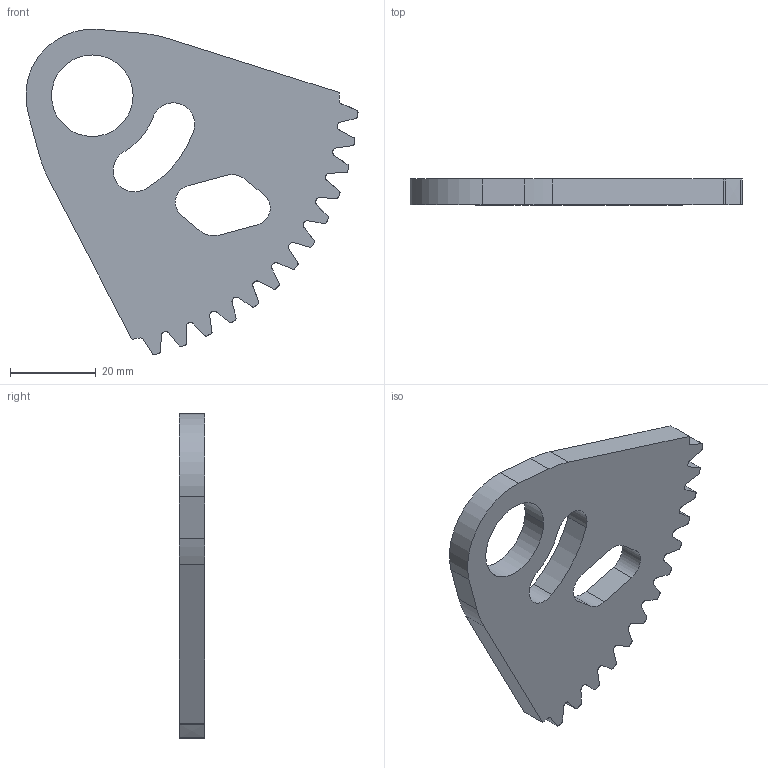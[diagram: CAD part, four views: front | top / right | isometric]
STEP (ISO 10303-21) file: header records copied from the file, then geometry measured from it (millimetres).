
FILE_DESCRIPTION(('CATIA V5 STEP Exchange'),'2;1');
FILE_NAME('D:\Program Files\feiq\AutoRecv Files\赵磊(74D435BB3F1F)\2020-03-02 08_44_33\2020-20191115\3.0骨架图纸\初版确认后图纸——付园\外发版图纸\北京开发钣金件\SHT0010228-仰角锁止钣金\SHT0010228.stp','2020-03-14T09:27:10+00:00',('none'),('none'),'CATIA Version 5 Release 20 GA (IN-10)','CATIA V5 STEP AP214','none');
FILE_SCHEMA(('AUTOMOTIVE_DESIGN { 1 0 10303 214 1 1 1 1 }'));
Length unit declared in the file: millimetre
Products named in the file (1): SHT0010228
Bounding box: 77.32 x 6 x 75.73 mm (x, y, z)
Volume: 18339.8 mm3; surface area: 9016.3 mm2
Topology: 1 solids, 1 shells, 157 faces, 465 edges, 310 vertices
Faces by surface type: cylinder 121, extrusion 26, plane 10
Entity records: 5202 total; most frequent: CARTESIAN_POINT 1254, ORIENTED_EDGE 930, DIRECTION 607, EDGE_CURVE 465, AXIS2_PLACEMENT_3D 327, VERTEX_POINT 310, CIRCLE 242, VECTOR 197
